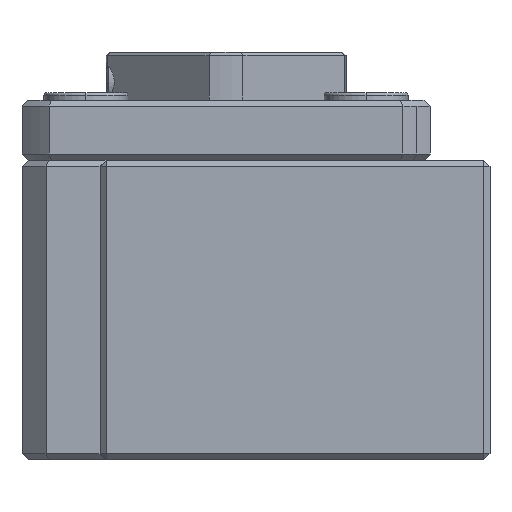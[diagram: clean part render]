
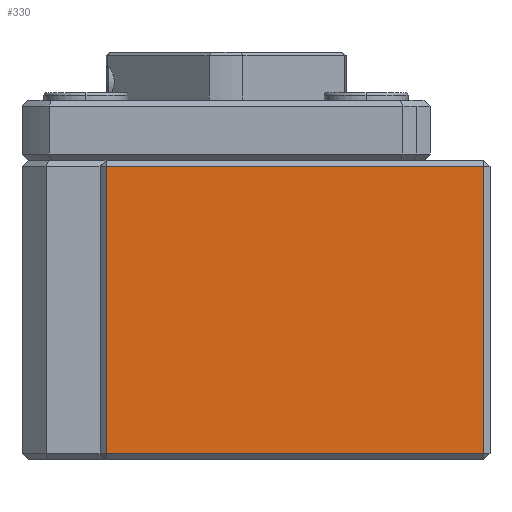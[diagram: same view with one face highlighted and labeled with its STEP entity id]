
A CAD part, left-side view. The second image highlights one B-rep face of the part: STEP entity #330.
In plain terms, the highlighted planar face has unit normal (-1, 0, 0).
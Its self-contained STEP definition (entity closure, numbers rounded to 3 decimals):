
#330 = ADVANCED_FACE ( 'NONE', ( #8241 ), #7383, .F. ) ;
#1869 = CARTESIAN_POINT ( 'NONE',  ( -30., 10., 12. ) ) ;
#1870 = CARTESIAN_POINT ( 'NONE',  ( -30., 10., -12. ) ) ;
#1871 = CARTESIAN_POINT ( 'NONE',  ( -30., -21.5, -12. ) ) ;
#1872 = CARTESIAN_POINT ( 'NONE',  ( -30., -21.5, 12. ) ) ;
#2344 = VECTOR ( 'NONE', #4505, 1000. ) ;
#2345 = VECTOR ( 'NONE', #4508, 1000. ) ;
#2346 = VECTOR ( 'NONE', #4511, 1000. ) ;
#2347 = VECTOR ( 'NONE', #4514, 1000. ) ;
#3625 = EDGE_CURVE ( 'NONE', #10670, #10671, #4503, .T. ) ;
#3626 = EDGE_CURVE ( 'NONE', #10669, #10670, #4506, .T. ) ;
#3627 = EDGE_CURVE ( 'NONE', #10671, #10672, #4509, .T. ) ;
#3628 = EDGE_CURVE ( 'NONE', #10672, #10669, #4512, .T. ) ;
#4503 = LINE ( 'NONE', #4504, #2344 ) ;
#4504 = CARTESIAN_POINT ( 'NONE',  ( -30., 10.5, -12. ) ) ;
#4505 = DIRECTION ( 'NONE',  ( 0., -1., 0. ) ) ;
#4506 = LINE ( 'NONE', #4507, #2345 ) ;
#4507 = CARTESIAN_POINT ( 'NONE',  ( -30., 10., 12.5 ) ) ;
#4508 = DIRECTION ( 'NONE',  ( 0., 0., -1. ) ) ;
#4509 = LINE ( 'NONE', #4510, #2346 ) ;
#4510 = CARTESIAN_POINT ( 'NONE',  ( -30., -21.5, 12.5 ) ) ;
#4511 = DIRECTION ( 'NONE',  ( 0., 0., 1. ) ) ;
#4512 = LINE ( 'NONE', #4513, #2347 ) ;
#4513 = CARTESIAN_POINT ( 'NONE',  ( -30., 10.5, 12. ) ) ;
#4514 = DIRECTION ( 'NONE',  ( 0., 1., 0. ) ) ;
#6469 = ORIENTED_EDGE ( 'NONE', *, *, #3626, .T. ) ;
#6471 = ORIENTED_EDGE ( 'NONE', *, *, #3627, .T. ) ;
#6472 = ORIENTED_EDGE ( 'NONE', *, *, #3625, .T. ) ;
#6473 = ORIENTED_EDGE ( 'NONE', *, *, #3628, .T. ) ;
#7383 = PLANE ( 'NONE',  #8243 ) ;
#7384 = CARTESIAN_POINT ( 'NONE',  ( -30., 10.5, 12.5 ) ) ;
#7385 = DIRECTION ( 'NONE',  ( 1., 0., 0. ) ) ;
#7386 = DIRECTION ( 'NONE',  ( 0., 1., 0. ) ) ;
#8241 = FACE_OUTER_BOUND ( 'NONE', #12161, .T. ) ;
#8243 = AXIS2_PLACEMENT_3D ( 'NONE', #7384, #7385, #7386 ) ;
#10669 = VERTEX_POINT ( 'NONE', #1869 ) ;
#10670 = VERTEX_POINT ( 'NONE', #1870 ) ;
#10671 = VERTEX_POINT ( 'NONE', #1871 ) ;
#10672 = VERTEX_POINT ( 'NONE', #1872 ) ;
#12161 = EDGE_LOOP ( 'NONE', ( #6469, #6472, #6471, #6473 ) ) ;
